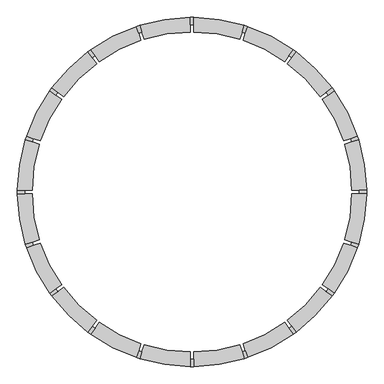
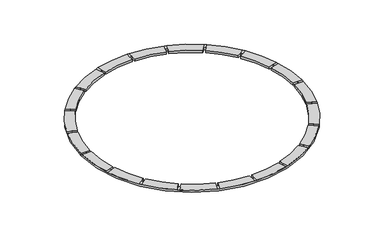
"""IFC4 building model written with IfcOpenShell, lengths in millimetres: proxy geometry, Drizzle 7.3dm."""

from ifc_helpers import new_model, si_unit, frame, origin, place, context, project, spatial, polyline, circle_curve, source, transform, mapped, element, save
from ifc_brep_helpers import plane_surface, cylinder_surface, revolved_surface, advanced_brep


def generic_models_4dc89ae3(model_context):
    return source(origin(), model_context, "Body", "AdvancedBrep", [
        advanced_brep(
        [(18335.1497302, 668.1683381, -48.9371706), (18335.1497302, 668.1683381, -60.9371706), (18335.1797277, 662.168658, -60.9371706), (18362.6903457, 488.4734491, -60.9371706), (18366.3983507, 477.0613828, -60.9371706), (18446.2372808, 320.3686589, -60.9371706), (18453.2903245, 310.6609771, -60.9371706), (18577.6423719, 186.3089304, -60.9371706), (18587.3500542, 179.2558864, -60.9371706), (18744.0427914, 99.4169531, -60.9371706), (18755.4548588, 95.7089481, -60.9371706), (18929.1500496, 68.1983357, -60.9371706), (18941.1494109, 68.1983357, -60.9371706), (19114.8446151, 95.7089524, -60.9371706), (19126.2566899, 99.4169602, -60.9371706), (19282.9494032, 179.2558844, -60.9371706), (19292.6570975, 186.3089372, -60.9371706), (19417.0091315, 310.6609713, -60.9371706), (19424.062188, 320.3686708, -60.9371706), (19503.9011123, 477.0613909, -60.9371706), (19507.6091228, 488.4734751, -60.9371706), (19535.1197325, 662.1686498, -60.9371706), (19535.1497302, 668.1683381, -60.9371706), (19535.1497302, 668.1683381, -48.9371706), (19535.1197325, 662.1686498, -48.9371706), (19507.6091228, 488.4734751, -48.9371706), (19503.9011123, 477.0613909, -48.9371706), (19424.062188, 320.3686708, -48.9371706), (19417.0091315, 310.6609713, -48.9371706), (19292.6570975, 186.3089372, -48.9371706), (19282.9494032, 179.2558844, -48.9371706), (19126.2566899, 99.4169602, -48.9371706), (19114.8446151, 95.7089524, -48.9371706), (18941.1494109, 68.1983357, -48.9371706), (18929.1500496, 68.1983357, -48.9371706), (18755.4548588, 95.7089481, -48.9371706), (18744.0427914, 99.4169531, -48.9371706), (18587.3500542, 179.2558864, -48.9371706), (18577.6423719, 186.3089304, -48.9371706), (18453.2903245, 310.6609771, -48.9371706), (18446.2372808, 320.3686589, -48.9371706), (18366.3983507, 477.0613828, -48.9371706), (18362.6903457, 488.4734491, -48.9371706), (18335.1797277, 662.168658, -48.9371706), (18335.1797277, 674.1680185, -48.9371706), (18362.690339, 847.8632059, -48.9371706), (18366.3983465, 859.2752809, -48.9371706), (18446.237274, 1015.9680078, -48.9371706), (18453.2903272, 1025.6757028, -48.9371706), (18577.642361, 1150.0277378, -48.9371706), (18587.3500592, 1157.0807934, -48.9371706), (18744.0427652, 1236.9197143, -48.9371706), (18755.4548508, 1240.6277256, -48.9371706), (18929.1500433, 1268.1383405, -48.9371706), (18941.1494169, 1268.1383405, -48.9371706), (19114.8445939, 1240.6277305, -48.9371706), (19126.2566767, 1236.9197205, -48.9371706), (19282.9493979, 1157.0807957, -48.9371706), (19292.6570966, 1150.0277398, -48.9371706), (19417.0091292, 1025.6757081, -48.9371706), (19424.062186, 1015.9680083, -48.9371706), (19503.9011065, 859.2753027, -48.9371706), (19507.6091175, 847.863218, -48.9371706), (19535.1197325, 674.1680266, -48.9371706), (19535.1197325, 674.1680266, -60.9371706), (19507.6091175, 847.863218, -60.9371706), (19503.9011065, 859.2753027, -60.9371706), (19424.062186, 1015.9680083, -60.9371706), (19417.0091292, 1025.6757081, -60.9371706), (19292.6570966, 1150.0277398, -60.9371706), (19282.9493979, 1157.0807957, -60.9371706), (19126.2566767, 1236.9197205, -60.9371706), (19114.8445939, 1240.6277305, -60.9371706), (18941.1494169, 1268.1383405, -60.9371706), (18929.1500433, 1268.1383405, -60.9371706), (18755.4548508, 1240.6277256, -60.9371706), (18744.0427652, 1236.9197143, -60.9371706), (18587.3500592, 1157.0807934, -60.9371706), (18577.642361, 1150.0277378, -60.9371706), (18453.2903272, 1025.6757028, -60.9371706), (18446.237274, 1015.9680078, -60.9371706), (18366.3983465, 859.2752809, -60.9371706), (18362.690339, 847.8632059, -60.9371706), (18335.1797277, 674.1680185, -60.9371706), (18602.045712, 1136.8544944, -60.9371706), (18751.7682976, 1213.1419615, -60.9371706), (18759.494162, 1189.3641952, -60.9371706), (18616.7411798, 1116.6279183, -60.9371706), (18751.7682976, 1213.1419615, -48.9371706), (18763.1809758, 1216.8501654, -48.9371706), (18759.494162, 1189.3641952, -48.9371706), (18770.9068402, 1193.072399, -48.9371706), (18763.1809758, 1216.8501654, -60.9371706), (18770.9068402, 1193.072399, -60.9371706), (18616.7411798, 1116.6279183, -48.9371706), (18602.045712, 1136.8544944, -48.9371706), (18592.3375081, 1129.8010713, -48.9371706), (18592.3375081, 1129.8010713, -60.9371706), (18473.5169948, 1010.9805574, -60.9371706), (18607.0329758, 1109.5744952, -60.9371706), (18493.743571, 996.2850897, -60.9371706), (18493.743571, 996.2850897, -48.9371706), (18607.0329758, 1109.5744952, -48.9371706), (18473.5169948, 1010.9805574, -48.9371706), (19376.5558873, 996.2850925, -48.9371706), (19376.5558873, 996.2850925, -60.9371706), (19396.7824634, 1010.9805602, -60.9371706), (19396.7824634, 1010.9805602, -48.9371706), (19383.6093103, 986.5768885, -48.9371706), (19403.8358864, 1001.2723563, -48.9371706), (19403.8358864, 1001.2723563, -60.9371706), (19383.6093103, 986.5768885, -60.9371706), (19263.2664818, 1109.5744973, -48.9371706), (19263.2664818, 1109.5744973, -60.9371706), (19277.9619494, 1129.8010735, -60.9371706), (19277.9619494, 1129.8010735, -48.9371706), (19253.5582778, 1116.6279203, -48.9371706), (19253.5582778, 1116.6279203, -60.9371706), (19268.2537455, 1136.8544964, -60.9371706), (19268.2537455, 1136.8544964, -48.9371706), (19110.8052827, 1189.3642004, -48.9371706), (19110.8052827, 1189.3642004, -60.9371706), (19118.5311464, 1213.141967, -60.9371706), (19118.5311464, 1213.141967, -48.9371706), (19099.3926044, 1193.0724039, -48.9371706), (19099.3926044, 1193.0724039, -60.9371706), (19107.1184681, 1216.8501705, -60.9371706), (19107.1184681, 1216.8501705, -48.9371706), (18941.1497302, 1218.1356099, -48.9371706), (18941.1497302, 1218.1356099, -60.9371706), (18941.1497302, 1243.1370329, -60.9371706), (18941.1497302, 1243.1370329, -48.9371706), (18929.1497302, 1218.1356099, -48.9371706), (18929.1497302, 1218.1356099, -60.9371706), (18929.1497302, 1243.1370329, -60.9371706), (18929.1497302, 1243.1370329, -48.9371706), (18466.4635718, 1001.2723534, -48.9371706), (18466.4635718, 1001.2723534, -60.9371706), (18390.1761013, 851.5497544, -60.9371706), (18486.690148, 986.5768858, -60.9371706), (18413.9538679, 843.8238907, -60.9371706), (18413.9538679, 843.8238907, -48.9371706), (18486.690148, 986.5768858, -48.9371706), (18390.1761013, 851.5497544, -48.9371706), (19396.7824655, 325.3561189, -60.9371706), (19396.7824655, 325.3561189, -48.9371706), (19403.8358885, 335.0643228, -48.9371706), (19403.8358885, 335.0643228, -60.9371706), (19480.123359, 484.7869218, -60.9371706), (19383.6093123, 349.7597905, -60.9371706), (19456.3455924, 492.5127855, -60.9371706), (19456.3455924, 492.5127855, -48.9371706), (19383.6093123, 349.7597905, -48.9371706), (19480.123359, 484.7869218, -48.9371706), (19376.5558893, 340.0515865, -60.9371706), (19376.5558893, 340.0515865, -48.9371706), (19483.8315625, 496.1996002, -48.9371706), (19483.8315625, 496.1996002, -60.9371706), (19460.0537959, 503.9254639, -60.9371706), (19485.1170019, 662.1683381, -60.9371706), (19510.118425, 662.1683381, -60.9371706), (19485.1170019, 662.1683381, -48.9371706), (19460.0537959, 503.9254639, -48.9371706), (19510.118425, 662.1683381, -48.9371706), (19510.1497302, 668.1683381, -48.9371706), (19510.1497302, 668.1683381, -60.9371706), (19510.118425, 674.1683381, -60.9371706), (19510.118425, 674.1683381, -48.9371706), (19460.053791, 832.4112281, -48.9371706), (19460.053791, 832.4112281, -60.9371706), (19485.1170019, 674.1683381, -60.9371706), (19485.1170019, 674.1683381, -48.9371706), (19483.8315574, 840.1370925, -60.9371706), (19483.8315574, 840.1370925, -48.9371706), (19456.3455872, 843.8239063, -48.9371706), (19456.3455872, 843.8239063, -60.9371706), (19480.1233535, 851.5497707, -60.9371706), (19480.1233535, 851.5497707, -48.9371706), (18386.4678978, 840.1370761, -48.9371706), (18386.4678978, 840.1370761, -60.9371706), (18360.1810354, 674.1683381, -60.9371706), (18410.2456644, 832.4112124, -60.9371706), (18385.1824584, 674.1683381, -60.9371706), (18385.1824584, 674.1683381, -48.9371706), (18410.2456644, 832.4112124, -48.9371706), (18360.1810354, 674.1683381, -48.9371706), (18360.1810354, 662.1683381, -48.9371706), (18360.1810354, 662.1683381, -60.9371706), (18386.4679029, 496.1995838, -60.9371706), (18385.1824584, 662.1683381, -60.9371706), (18410.2456693, 503.9254482, -60.9371706), (18410.2456693, 503.9254482, -48.9371706), (18385.1824584, 662.1683381, -48.9371706), (18386.4679029, 496.1995838, -48.9371706), (18390.1761068, 484.7869055, -48.9371706), (18390.1761068, 484.7869055, -60.9371706), (18466.4635739, 335.0643199, -60.9371706), (18413.9538731, 492.51277, -60.9371706), (18486.69015, 349.7597877, -60.9371706), (18486.69015, 349.7597877, -48.9371706), (18413.9538731, 492.51277, -48.9371706), (18466.4635739, 335.0643199, -48.9371706), (18473.5169969, 325.356116, -48.9371706), (18473.5169969, 325.356116, -60.9371706), (18592.3375109, 206.5356028, -60.9371706), (18493.7435731, 340.0515838, -60.9371706), (18607.0329786, 226.762179, -60.9371706), (18607.0329786, 226.762179, -48.9371706), (18493.7435731, 340.0515838, -48.9371706), (18592.3375109, 206.5356028, -48.9371706), (18602.0457149, 199.4821798, -48.9371706), (18602.0457149, 199.4821798, -60.9371706), (18751.7683139, 123.1947093, -60.9371706), (18616.7411825, 219.708756, -60.9371706), (18759.4941776, 146.9724759, -60.9371706), (18759.4941776, 146.9724759, -48.9371706), (18616.7411825, 219.708756, -48.9371706), (18751.7683139, 123.1947093, -48.9371706), (18763.1809922, 119.4865058, -48.9371706), (18763.1809922, 119.4865058, -60.9371706), (18929.1497302, 93.1996433, -60.9371706), (18770.9068559, 143.2642724, -60.9371706), (18929.1497302, 118.2010664, -60.9371706), (18929.1497302, 118.2010664, -48.9371706), (18770.9068559, 143.2642724, -48.9371706), (18929.1497302, 93.1996433, -48.9371706), (18941.1497302, 93.1996433, -48.9371706), (18941.1497302, 93.1996433, -60.9371706), (19107.1184845, 119.4865109, -60.9371706), (18941.1497302, 118.2010664, -60.9371706), (19099.3926201, 143.2642773, -60.9371706), (19099.3926201, 143.2642773, -48.9371706), (18941.1497302, 118.2010664, -48.9371706), (19107.1184845, 119.4865109, -48.9371706), (19118.5311627, 123.1947148, -48.9371706), (19118.5311627, 123.1947148, -60.9371706), (19268.2537483, 199.4821819, -60.9371706), (19110.8052983, 146.9724811, -60.9371706), (19253.5582806, 219.708758, -60.9371706), (19253.5582806, 219.708758, -48.9371706), (19110.8052983, 146.9724811, -48.9371706), (19268.2537483, 199.4821819, -48.9371706), (19277.9619523, 206.5356049, -48.9371706), (19277.9619523, 206.5356049, -60.9371706), (19263.2664845, 226.762181, -60.9371706), (19263.2664845, 226.762181, -48.9371706)],
        [
            (0, 1),
            (1, 2, circle_curve(frame((18935.1497302, 668.1683381, -60.9371706), z_axis=(0.0, 0.0, 1.0), x_axis=(-1.0, 0.0, 0.0)), 600.0)),
            (2, 3, circle_curve(frame((18935.1497302, 668.1683381, -60.9371706), z_axis=(0.0, 0.0, 1.0), x_axis=(-1.0, 0.0, 0.0)), 600.0)),
            (3, 4, circle_curve(frame((18935.1497302, 668.1683381, -60.9371706), z_axis=(0.0, 0.0, 1.0), x_axis=(-1.0, 0.0, 0.0)), 600.0)),
            (4, 5, circle_curve(frame((18935.1497302, 668.1683381, -60.9371706), z_axis=(0.0, 0.0, 1.0), x_axis=(-1.0, 0.0, 0.0)), 600.0)),
            (5, 6, circle_curve(frame((18935.1497302, 668.1683381, -60.9371706), z_axis=(0.0, 0.0, 1.0), x_axis=(-1.0, 0.0, 0.0)), 600.0)),
            (6, 7, circle_curve(frame((18935.1497302, 668.1683381, -60.9371706), z_axis=(0.0, 0.0, 1.0), x_axis=(-1.0, 0.0, 0.0)), 600.0)),
            (7, 8, circle_curve(frame((18935.1497302, 668.1683381, -60.9371706), z_axis=(0.0, 0.0, 1.0), x_axis=(-1.0, 0.0, 0.0)), 600.0)),
            (8, 9, circle_curve(frame((18935.1497302, 668.1683381, -60.9371706), z_axis=(0.0, 0.0, 1.0), x_axis=(-1.0, 0.0, 0.0)), 600.0)),
            (9, 10, circle_curve(frame((18935.1497302, 668.1683381, -60.9371706), z_axis=(0.0, 0.0, 1.0), x_axis=(-1.0, 0.0, 0.0)), 600.0)),
            (10, 11, circle_curve(frame((18935.1497302, 668.1683381, -60.9371706), z_axis=(0.0, 0.0, 1.0), x_axis=(-1.0, 0.0, 0.0)), 600.0)),
            (11, 12, circle_curve(frame((18935.1497302, 668.1683381, -60.9371706), z_axis=(0.0, 0.0, 1.0), x_axis=(-1.0, 0.0, 0.0)), 600.0)),
            (12, 13, circle_curve(frame((18935.1497302, 668.1683381, -60.9371706), z_axis=(0.0, 0.0, 1.0), x_axis=(-1.0, 0.0, 0.0)), 600.0)),
            (13, 14, circle_curve(frame((18935.1497302, 668.1683381, -60.9371706), z_axis=(0.0, 0.0, 1.0), x_axis=(-1.0, 0.0, 0.0)), 600.0)),
            (14, 15, circle_curve(frame((18935.1497302, 668.1683381, -60.9371706), z_axis=(0.0, 0.0, 1.0), x_axis=(-1.0, 0.0, 0.0)), 600.0)),
            (15, 16, circle_curve(frame((18935.1497302, 668.1683381, -60.9371706), z_axis=(0.0, 0.0, 1.0), x_axis=(-1.0, 0.0, 0.0)), 600.0)),
            (16, 17, circle_curve(frame((18935.1497302, 668.1683381, -60.9371706), z_axis=(0.0, 0.0, 1.0), x_axis=(-1.0, 0.0, 0.0)), 600.0)),
            (17, 18, circle_curve(frame((18935.1497302, 668.1683381, -60.9371706), z_axis=(0.0, 0.0, 1.0), x_axis=(-1.0, 0.0, 0.0)), 600.0)),
            (18, 19, circle_curve(frame((18935.1497302, 668.1683381, -60.9371706), z_axis=(0.0, 0.0, 1.0), x_axis=(-1.0, 0.0, 0.0)), 600.0)),
            (19, 20, circle_curve(frame((18935.1497302, 668.1683381, -60.9371706), z_axis=(0.0, 0.0, 1.0), x_axis=(-1.0, 0.0, 0.0)), 600.0)),
            (20, 21, circle_curve(frame((18935.1497302, 668.1683381, -60.9371706), z_axis=(0.0, 0.0, 1.0), x_axis=(-1.0, 0.0, 0.0)), 600.0)),
            (21, 22, circle_curve(frame((18935.1497302, 668.1683381, -60.9371706), z_axis=(0.0, 0.0, 1.0), x_axis=(-1.0, 0.0, 0.0)), 600.0)),
            (22, 23),
            (23, 24, circle_curve(frame((18935.1497302, 668.1683381, -48.9371706), z_axis=(0.0, 0.0, -1.0), x_axis=(-1.0, 0.0, 0.0)), 600.0)),
            (24, 25, circle_curve(frame((18935.1497302, 668.1683381, -48.9371706), z_axis=(0.0, 0.0, -1.0), x_axis=(-1.0, 0.0, 0.0)), 600.0)),
            (25, 26, circle_curve(frame((18935.1497302, 668.1683381, -48.9371706), z_axis=(0.0, 0.0, -1.0), x_axis=(-1.0, 0.0, 0.0)), 600.0)),
            (26, 27, circle_curve(frame((18935.1497302, 668.1683381, -48.9371706), z_axis=(0.0, 0.0, -1.0), x_axis=(-1.0, 0.0, 0.0)), 600.0)),
            (27, 28, circle_curve(frame((18935.1497302, 668.1683381, -48.9371706), z_axis=(0.0, 0.0, -1.0), x_axis=(-1.0, 0.0, 0.0)), 600.0)),
            (28, 29, circle_curve(frame((18935.1497302, 668.1683381, -48.9371706), z_axis=(0.0, 0.0, -1.0), x_axis=(-1.0, 0.0, 0.0)), 600.0)),
            (29, 30, circle_curve(frame((18935.1497302, 668.1683381, -48.9371706), z_axis=(0.0, 0.0, -1.0), x_axis=(-1.0, 0.0, 0.0)), 600.0)),
            (30, 31, circle_curve(frame((18935.1497302, 668.1683381, -48.9371706), z_axis=(0.0, 0.0, -1.0), x_axis=(-1.0, 0.0, 0.0)), 600.0)),
            (31, 32, circle_curve(frame((18935.1497302, 668.1683381, -48.9371706), z_axis=(0.0, 0.0, -1.0), x_axis=(-1.0, 0.0, 0.0)), 600.0)),
            (32, 33, circle_curve(frame((18935.1497302, 668.1683381, -48.9371706), z_axis=(0.0, 0.0, -1.0), x_axis=(-1.0, 0.0, 0.0)), 600.0)),
            (33, 34, circle_curve(frame((18935.1497302, 668.1683381, -48.9371706), z_axis=(0.0, 0.0, -1.0), x_axis=(-1.0, 0.0, 0.0)), 600.0)),
            (34, 35, circle_curve(frame((18935.1497302, 668.1683381, -48.9371706), z_axis=(0.0, 0.0, -1.0), x_axis=(-1.0, 0.0, 0.0)), 600.0)),
            (35, 36, circle_curve(frame((18935.1497302, 668.1683381, -48.9371706), z_axis=(0.0, 0.0, -1.0), x_axis=(-1.0, 0.0, 0.0)), 600.0)),
            (36, 37, circle_curve(frame((18935.1497302, 668.1683381, -48.9371706), z_axis=(0.0, 0.0, -1.0), x_axis=(-1.0, 0.0, 0.0)), 600.0)),
            (37, 38, circle_curve(frame((18935.1497302, 668.1683381, -48.9371706), z_axis=(0.0, 0.0, -1.0), x_axis=(-1.0, 0.0, 0.0)), 600.0)),
            (38, 39, circle_curve(frame((18935.1497302, 668.1683381, -48.9371706), z_axis=(0.0, 0.0, -1.0), x_axis=(-1.0, 0.0, 0.0)), 600.0)),
            (39, 40, circle_curve(frame((18935.1497302, 668.1683381, -48.9371706), z_axis=(0.0, 0.0, -1.0), x_axis=(-1.0, 0.0, 0.0)), 600.0)),
            (40, 41, circle_curve(frame((18935.1497302, 668.1683381, -48.9371706), z_axis=(0.0, 0.0, -1.0), x_axis=(-1.0, 0.0, 0.0)), 600.0)),
            (41, 42, circle_curve(frame((18935.1497302, 668.1683381, -48.9371706), z_axis=(0.0, 0.0, -1.0), x_axis=(-1.0, 0.0, 0.0)), 600.0)),
            (42, 43, circle_curve(frame((18935.1497302, 668.1683381, -48.9371706), z_axis=(0.0, 0.0, -1.0), x_axis=(-1.0, 0.0, 0.0)), 600.0)),
            (43, 0, circle_curve(frame((18935.1497302, 668.1683381, -48.9371706), z_axis=(0.0, 0.0, -1.0), x_axis=(-1.0, 0.0, 0.0)), 600.0)),
            (0, 44, circle_curve(frame((18935.1497302, 668.1683381, -48.9371706), z_axis=(0.0, 0.0, -1.0), x_axis=(-1.0, 0.0, 0.0)), 600.0)),
            (44, 45, circle_curve(frame((18935.1497302, 668.1683381, -48.9371706), z_axis=(0.0, 0.0, -1.0), x_axis=(-1.0, 0.0, 0.0)), 600.0)),
            (45, 46, circle_curve(frame((18935.1497302, 668.1683381, -48.9371706), z_axis=(0.0, 0.0, -1.0), x_axis=(-1.0, 0.0, 0.0)), 600.0)),
            (46, 47, circle_curve(frame((18935.1497302, 668.1683381, -48.9371706), z_axis=(0.0, 0.0, -1.0), x_axis=(-1.0, 0.0, 0.0)), 600.0)),
            (47, 48, circle_curve(frame((18935.1497302, 668.1683381, -48.9371706), z_axis=(0.0, 0.0, -1.0), x_axis=(-1.0, 0.0, 0.0)), 600.0)),
            (48, 49, circle_curve(frame((18935.1497302, 668.1683381, -48.9371706), z_axis=(0.0, 0.0, -1.0), x_axis=(-1.0, 0.0, 0.0)), 600.0)),
            (49, 50, circle_curve(frame((18935.1497302, 668.1683381, -48.9371706), z_axis=(0.0, 0.0, -1.0), x_axis=(-1.0, 0.0, 0.0)), 600.0)),
            (50, 51, circle_curve(frame((18935.1497302, 668.1683381, -48.9371706), z_axis=(0.0, 0.0, -1.0), x_axis=(-1.0, 0.0, 0.0)), 600.0)),
            (51, 52, circle_curve(frame((18935.1497302, 668.1683381, -48.9371706), z_axis=(0.0, 0.0, -1.0), x_axis=(-1.0, 0.0, 0.0)), 600.0)),
            (52, 53, circle_curve(frame((18935.1497302, 668.1683381, -48.9371706), z_axis=(0.0, 0.0, -1.0), x_axis=(-1.0, 0.0, 0.0)), 600.0)),
            (53, 54, circle_curve(frame((18935.1497302, 668.1683381, -48.9371706), z_axis=(0.0, 0.0, -1.0), x_axis=(-1.0, 0.0, 0.0)), 600.0)),
            (54, 55, circle_curve(frame((18935.1497302, 668.1683381, -48.9371706), z_axis=(0.0, 0.0, -1.0), x_axis=(-1.0, 0.0, 0.0)), 600.0)),
            (55, 56, circle_curve(frame((18935.1497302, 668.1683381, -48.9371706), z_axis=(0.0, 0.0, -1.0), x_axis=(-1.0, 0.0, 0.0)), 600.0)),
            (56, 57, circle_curve(frame((18935.1497302, 668.1683381, -48.9371706), z_axis=(0.0, 0.0, -1.0), x_axis=(-1.0, 0.0, 0.0)), 600.0)),
            (57, 58, circle_curve(frame((18935.1497302, 668.1683381, -48.9371706), z_axis=(0.0, 0.0, -1.0), x_axis=(-1.0, 0.0, 0.0)), 600.0)),
            (58, 59, circle_curve(frame((18935.1497302, 668.1683381, -48.9371706), z_axis=(0.0, 0.0, -1.0), x_axis=(-1.0, 0.0, 0.0)), 600.0)),
            (59, 60, circle_curve(frame((18935.1497302, 668.1683381, -48.9371706), z_axis=(0.0, 0.0, -1.0), x_axis=(-1.0, 0.0, 0.0)), 600.0)),
            (60, 61, circle_curve(frame((18935.1497302, 668.1683381, -48.9371706), z_axis=(0.0, 0.0, -1.0), x_axis=(-1.0, 0.0, 0.0)), 600.0)),
            (61, 62, circle_curve(frame((18935.1497302, 668.1683381, -48.9371706), z_axis=(0.0, 0.0, -1.0), x_axis=(-1.0, 0.0, 0.0)), 600.0)),
            (62, 63, circle_curve(frame((18935.1497302, 668.1683381, -48.9371706), z_axis=(0.0, 0.0, -1.0), x_axis=(-1.0, 0.0, 0.0)), 600.0)),
            (63, 23, circle_curve(frame((18935.1497302, 668.1683381, -48.9371706), z_axis=(0.0, 0.0, -1.0), x_axis=(-1.0, 0.0, 0.0)), 600.0)),
            (22, 64, circle_curve(frame((18935.1497302, 668.1683381, -60.9371706), z_axis=(0.0, 0.0, 1.0), x_axis=(-1.0, 0.0, 0.0)), 600.0)),
            (64, 65, circle_curve(frame((18935.1497302, 668.1683381, -60.9371706), z_axis=(0.0, 0.0, 1.0), x_axis=(-1.0, 0.0, 0.0)), 600.0)),
            (65, 66, circle_curve(frame((18935.1497302, 668.1683381, -60.9371706), z_axis=(0.0, 0.0, 1.0), x_axis=(-1.0, 0.0, 0.0)), 600.0)),
            (66, 67, circle_curve(frame((18935.1497302, 668.1683381, -60.9371706), z_axis=(0.0, 0.0, 1.0), x_axis=(-1.0, 0.0, 0.0)), 600.0)),
            (67, 68, circle_curve(frame((18935.1497302, 668.1683381, -60.9371706), z_axis=(0.0, 0.0, 1.0), x_axis=(-1.0, 0.0, 0.0)), 600.0)),
            (68, 69, circle_curve(frame((18935.1497302, 668.1683381, -60.9371706), z_axis=(0.0, 0.0, 1.0), x_axis=(-1.0, 0.0, 0.0)), 600.0)),
            (69, 70, circle_curve(frame((18935.1497302, 668.1683381, -60.9371706), z_axis=(0.0, 0.0, 1.0), x_axis=(-1.0, 0.0, 0.0)), 600.0)),
            (70, 71, circle_curve(frame((18935.1497302, 668.1683381, -60.9371706), z_axis=(0.0, 0.0, 1.0), x_axis=(-1.0, 0.0, 0.0)), 600.0)),
            (71, 72, circle_curve(frame((18935.1497302, 668.1683381, -60.9371706), z_axis=(0.0, 0.0, 1.0), x_axis=(-1.0, 0.0, 0.0)), 600.0)),
            (72, 73, circle_curve(frame((18935.1497302, 668.1683381, -60.9371706), z_axis=(0.0, 0.0, 1.0), x_axis=(-1.0, 0.0, 0.0)), 600.0)),
            (73, 74, circle_curve(frame((18935.1497302, 668.1683381, -60.9371706), z_axis=(0.0, 0.0, 1.0), x_axis=(-1.0, 0.0, 0.0)), 600.0)),
            (74, 75, circle_curve(frame((18935.1497302, 668.1683381, -60.9371706), z_axis=(0.0, 0.0, 1.0), x_axis=(-1.0, 0.0, 0.0)), 600.0)),
            (75, 76, circle_curve(frame((18935.1497302, 668.1683381, -60.9371706), z_axis=(0.0, 0.0, 1.0), x_axis=(-1.0, 0.0, 0.0)), 600.0)),
            (76, 77, circle_curve(frame((18935.1497302, 668.1683381, -60.9371706), z_axis=(0.0, 0.0, 1.0), x_axis=(-1.0, 0.0, 0.0)), 600.0)),
            (77, 78, circle_curve(frame((18935.1497302, 668.1683381, -60.9371706), z_axis=(0.0, 0.0, 1.0), x_axis=(-1.0, 0.0, 0.0)), 600.0)),
            (78, 79, circle_curve(frame((18935.1497302, 668.1683381, -60.9371706), z_axis=(0.0, 0.0, 1.0), x_axis=(-1.0, 0.0, 0.0)), 600.0)),
            (79, 80, circle_curve(frame((18935.1497302, 668.1683381, -60.9371706), z_axis=(0.0, 0.0, 1.0), x_axis=(-1.0, 0.0, 0.0)), 600.0)),
            (80, 81, circle_curve(frame((18935.1497302, 668.1683381, -60.9371706), z_axis=(0.0, 0.0, 1.0), x_axis=(-1.0, 0.0, 0.0)), 600.0)),
            (81, 82, circle_curve(frame((18935.1497302, 668.1683381, -60.9371706), z_axis=(0.0, 0.0, 1.0), x_axis=(-1.0, 0.0, 0.0)), 600.0)),
            (82, 83, circle_curve(frame((18935.1497302, 668.1683381, -60.9371706), z_axis=(0.0, 0.0, 1.0), x_axis=(-1.0, 0.0, 0.0)), 600.0)),
            (83, 1, circle_curve(frame((18935.1497302, 668.1683381, -60.9371706), z_axis=(0.0, 0.0, 1.0), x_axis=(-1.0, 0.0, 0.0)), 600.0)),
            (84, 77),
            (76, 85),
            (85, 86),
            (86, 87, circle_curve(frame((18935.1497302, 668.1683381, -60.9371706), z_axis=(0.0, 0.0, 1.0), x_axis=(-1.0, 0.0, 0.0)), 550.0)),
            (87, 84),
            (51, 88),
            (88, 89, circle_curve(frame((18935.1497302, 668.1683381, -48.9371706), z_axis=(0.0, 0.0, -1.0), x_axis=(-1.0, 0.0, 0.0)), 575.0)),
            (89, 52),
            (90, 86),
            (85, 88),
            (88, 90),
            (91, 89),
            (89, 92),
            (92, 93),
            (93, 91),
            (85, 92, circle_curve(frame((18935.1497302, 668.1683381, -60.9371706), z_axis=(0.0, 0.0, -1.0), x_axis=(-1.0, 0.0, 0.0)), 575.0)),
            (94, 87),
            (90, 94, circle_curve(frame((18935.1497302, 668.1683381, -48.9371706), z_axis=(0.0, 0.0, 1.0), x_axis=(-1.0, 0.0, 0.0)), 550.0)),
            (75, 92),
            (95, 94),
            (50, 95),
            (84, 95),
            (95, 96, circle_curve(frame((18935.1497302, 668.1683381, -48.9371706), z_axis=(0.0, 0.0, 1.0), x_axis=(-1.0, 0.0, 0.0)), 575.0)),
            (96, 97),
            (97, 84, circle_curve(frame((18935.1497302, 668.1683381, -60.9371706), z_axis=(0.0, 0.0, -1.0), x_axis=(-1.0, 0.0, 0.0)), 575.0)),
            (97, 78),
            (98, 79),
            (97, 99),
            (99, 100, circle_curve(frame((18935.1497302, 668.1683381, -60.9371706), z_axis=(0.0, 0.0, 1.0), x_axis=(-1.0, 0.0, 0.0)), 550.0)),
            (100, 98),
            (101, 100),
            (99, 102),
            (102, 101, circle_curve(frame((18935.1497302, 668.1683381, -48.9371706), z_axis=(0.0, 0.0, 1.0), x_axis=(-1.0, 0.0, 0.0)), 550.0)),
            (49, 96),
            (103, 101),
            (102, 96),
            (48, 103),
            (104, 105),
            (105, 106),
            (106, 107),
            (107, 104),
            (108, 109),
            (109, 110),
            (110, 111),
            (111, 108),
            (109, 107, circle_curve(frame((18935.1497302, 668.1683381, -48.9371706), z_axis=(0.0, 0.0, 1.0), x_axis=(-1.0, 0.0, 0.0)), 575.0)),
            (106, 110, circle_curve(frame((18935.1497302, 668.1683381, -60.9371706), z_axis=(0.0, 0.0, -1.0), x_axis=(-1.0, 0.0, 0.0)), 575.0)),
            (112, 113),
            (113, 105, circle_curve(frame((18935.1497302, 668.1683381, -60.9371706), z_axis=(0.0, 0.0, -1.0), x_axis=(-1.0, 0.0, 0.0)), 550.0)),
            (104, 112, circle_curve(frame((18935.1497302, 668.1683381, -48.9371706), z_axis=(0.0, 0.0, 1.0), x_axis=(-1.0, 0.0, 0.0)), 550.0)),
            (114, 69),
            (68, 106),
            (113, 114),
            (67, 110),
            (59, 107),
            (109, 60),
            (115, 112),
            (58, 115),
            (116, 117),
            (117, 118),
            (118, 119),
            (119, 116),
            (115, 114),
            (115, 119, circle_curve(frame((18935.1497302, 668.1683381, -48.9371706), z_axis=(0.0, 0.0, 1.0), x_axis=(-1.0, 0.0, 0.0)), 575.0)),
            (118, 114, circle_curve(frame((18935.1497302, 668.1683381, -60.9371706), z_axis=(0.0, 0.0, -1.0), x_axis=(-1.0, 0.0, 0.0)), 575.0)),
            (120, 121),
            (121, 117, circle_curve(frame((18935.1497302, 668.1683381, -60.9371706), z_axis=(0.0, 0.0, -1.0), x_axis=(-1.0, 0.0, 0.0)), 550.0)),
            (116, 120, circle_curve(frame((18935.1497302, 668.1683381, -48.9371706), z_axis=(0.0, 0.0, 1.0), x_axis=(-1.0, 0.0, 0.0)), 550.0)),
            (122, 71),
            (70, 118),
            (121, 122),
            (57, 119),
            (123, 120),
            (56, 123),
            (124, 125),
            (125, 126),
            (126, 127),
            (127, 124),
            (123, 122),
            (123, 127, circle_curve(frame((18935.1497302, 668.1683381, -48.9371706), z_axis=(0.0, 0.0, 1.0), x_axis=(-1.0, 0.0, 0.0)), 575.0)),
            (126, 122, circle_curve(frame((18935.1497302, 668.1683381, -60.9371706), z_axis=(0.0, 0.0, -1.0), x_axis=(-1.0, 0.0, 0.0)), 575.0)),
            (128, 129),
            (129, 125, circle_curve(frame((18935.1497302, 668.1683381, -60.9371706), z_axis=(0.0, 0.0, -1.0), x_axis=(-1.0, 0.0, 0.0)), 550.0)),
            (124, 128, circle_curve(frame((18935.1497302, 668.1683381, -48.9371706), z_axis=(0.0, 0.0, 1.0), x_axis=(-1.0, 0.0, 0.0)), 550.0)),
            (130, 73),
            (72, 126),
            (129, 130),
            (55, 127),
            (131, 128),
            (54, 131),
            (132, 133),
            (133, 134),
            (134, 135),
            (135, 132),
            (131, 130),
            (131, 135, circle_curve(frame((18935.1497302, 668.1683381, -48.9371706), z_axis=(0.0, 0.0, 1.0), x_axis=(-1.0, 0.0, 0.0)), 575.0)),
            (134, 130, circle_curve(frame((18935.1497302, 668.1683381, -60.9371706), z_axis=(0.0, 0.0, -1.0), x_axis=(-1.0, 0.0, 0.0)), 575.0)),
            (132, 91, circle_curve(frame((18935.1497302, 668.1683381, -48.9371706), z_axis=(0.0, 0.0, 1.0), x_axis=(-1.0, 0.0, 0.0)), 550.0)),
            (93, 133, circle_curve(frame((18935.1497302, 668.1683381, -60.9371706), z_axis=(0.0, 0.0, -1.0), x_axis=(-1.0, 0.0, 0.0)), 550.0)),
            (74, 134),
            (53, 135),
            (98, 103),
            (103, 136, circle_curve(frame((18935.1497302, 668.1683381, -48.9371706), z_axis=(0.0, 0.0, 1.0), x_axis=(-1.0, 0.0, 0.0)), 575.0)),
            (136, 137),
            (137, 98, circle_curve(frame((18935.1497302, 668.1683381, -60.9371706), z_axis=(0.0, 0.0, -1.0), x_axis=(-1.0, 0.0, 0.0)), 575.0)),
            (137, 80),
            (138, 81),
            (137, 139),
            (139, 140, circle_curve(frame((18935.1497302, 668.1683381, -60.9371706), z_axis=(0.0, 0.0, 1.0), x_axis=(-1.0, 0.0, 0.0)), 550.0)),
            (140, 138),
            (141, 140),
            (139, 142),
            (142, 141, circle_curve(frame((18935.1497302, 668.1683381, -48.9371706), z_axis=(0.0, 0.0, 1.0), x_axis=(-1.0, 0.0, 0.0)), 550.0)),
            (47, 136),
            (143, 141),
            (142, 136),
            (46, 143),
            (144, 145),
            (145, 146, circle_curve(frame((18935.1497302, 668.1683381, -48.9371706), z_axis=(0.0, 0.0, 1.0), x_axis=(-1.0, 0.0, 0.0)), 575.0)),
            (146, 147),
            (147, 144, circle_curve(frame((18935.1497302, 668.1683381, -60.9371706), z_axis=(0.0, 0.0, -1.0), x_axis=(-1.0, 0.0, 0.0)), 575.0)),
            (17, 144),
            (147, 18),
            (148, 19),
            (147, 149),
            (149, 150, circle_curve(frame((18935.1497302, 668.1683381, -60.9371706), z_axis=(0.0, 0.0, 1.0), x_axis=(-1.0, 0.0, 0.0)), 550.0)),
            (150, 148),
            (151, 150),
            (149, 152),
            (152, 151, circle_curve(frame((18935.1497302, 668.1683381, -48.9371706), z_axis=(0.0, 0.0, 1.0), x_axis=(-1.0, 0.0, 0.0)), 550.0)),
            (27, 146),
            (145, 28),
            (153, 151),
            (152, 146),
            (26, 153),
            (144, 154),
            (154, 155),
            (155, 145),
            (148, 153),
            (153, 156, circle_curve(frame((18935.1497302, 668.1683381, -48.9371706), z_axis=(0.0, 0.0, 1.0), x_axis=(-1.0, 0.0, 0.0)), 575.0)),
            (156, 157),
            (157, 148, circle_curve(frame((18935.1497302, 668.1683381, -60.9371706), z_axis=(0.0, 0.0, -1.0), x_axis=(-1.0, 0.0, 0.0)), 575.0)),
            (157, 20),
            (157, 158),
            (158, 159, circle_curve(frame((18935.1497302, 668.1683381, -60.9371706), z_axis=(0.0, 0.0, 1.0), x_axis=(-1.0, 0.0, 0.0)), 550.0)),
            (159, 160),
            (160, 21),
            (161, 159),
            (158, 162),
            (162, 161, circle_curve(frame((18935.1497302, 668.1683381, -48.9371706), z_axis=(0.0, 0.0, 1.0), x_axis=(-1.0, 0.0, 0.0)), 550.0)),
            (25, 156),
            (163, 161),
            (162, 156),
            (24, 163),
            (160, 163),
            (163, 164, circle_curve(frame((18935.1497302, 668.1683381, -48.9371706), z_axis=(0.0, 0.0, 1.0), x_axis=(-1.0, 0.0, 0.0)), 575.0)),
            (164, 165),
            (165, 160, circle_curve(frame((18935.1497302, 668.1683381, -60.9371706), z_axis=(0.0, 0.0, -1.0), x_axis=(-1.0, 0.0, 0.0)), 575.0)),
            (166, 165, circle_curve(frame((18935.1497302, 668.1683381, -60.9371706), z_axis=(0.0, 0.0, -1.0), x_axis=(-1.0, 0.0, 0.0)), 575.0)),
            (164, 167, circle_curve(frame((18935.1497302, 668.1683381, -48.9371706), z_axis=(0.0, 0.0, 1.0), x_axis=(-1.0, 0.0, 0.0)), 575.0)),
            (167, 166),
            (168, 169),
            (169, 170, circle_curve(frame((18935.1497302, 668.1683381, -60.9371706), z_axis=(0.0, 0.0, -1.0), x_axis=(-1.0, 0.0, 0.0)), 550.0)),
            (170, 171),
            (171, 168, circle_curve(frame((18935.1497302, 668.1683381, -48.9371706), z_axis=(0.0, 0.0, 1.0), x_axis=(-1.0, 0.0, 0.0)), 550.0)),
            (166, 64),
            (172, 65),
            (166, 170),
            (169, 172),
            (63, 167),
            (173, 168),
            (171, 167),
            (62, 173),
            (174, 175),
            (175, 176),
            (176, 177),
            (177, 174),
            (173, 172),
            (173, 177, circle_curve(frame((18935.1497302, 668.1683381, -48.9371706), z_axis=(0.0, 0.0, 1.0), x_axis=(-1.0, 0.0, 0.0)), 575.0)),
            (176, 172, circle_curve(frame((18935.1497302, 668.1683381, -60.9371706), z_axis=(0.0, 0.0, -1.0), x_axis=(-1.0, 0.0, 0.0)), 575.0)),
            (174, 108, circle_curve(frame((18935.1497302, 668.1683381, -48.9371706), z_axis=(0.0, 0.0, 1.0), x_axis=(-1.0, 0.0, 0.0)), 550.0)),
            (111, 175, circle_curve(frame((18935.1497302, 668.1683381, -60.9371706), z_axis=(0.0, 0.0, -1.0), x_axis=(-1.0, 0.0, 0.0)), 550.0)),
            (66, 176),
            (61, 177),
            (138, 143),
            (143, 178, circle_curve(frame((18935.1497302, 668.1683381, -48.9371706), z_axis=(0.0, 0.0, 1.0), x_axis=(-1.0, 0.0, 0.0)), 575.0)),
            (178, 179),
            (179, 138, circle_curve(frame((18935.1497302, 668.1683381, -60.9371706), z_axis=(0.0, 0.0, -1.0), x_axis=(-1.0, 0.0, 0.0)), 575.0)),
            (179, 82),
            (180, 83),
            (179, 181),
            (181, 182, circle_curve(frame((18935.1497302, 668.1683381, -60.9371706), z_axis=(0.0, 0.0, 1.0), x_axis=(-1.0, 0.0, 0.0)), 550.0)),
            (182, 180),
            (183, 182),
            (181, 184),
            (184, 183, circle_curve(frame((18935.1497302, 668.1683381, -48.9371706), z_axis=(0.0, 0.0, 1.0), x_axis=(-1.0, 0.0, 0.0)), 550.0)),
            (45, 178),
            (185, 183),
            (184, 178),
            (44, 185),
            (180, 185),
            (185, 186, circle_curve(frame((18935.1497302, 668.1683381, -48.9371706), z_axis=(0.0, 0.0, 1.0), x_axis=(-1.0, 0.0, 0.0)), 575.0)),
            (186, 187),
            (187, 180, circle_curve(frame((18935.1497302, 668.1683381, -60.9371706), z_axis=(0.0, 0.0, -1.0), x_axis=(-1.0, 0.0, 0.0)), 575.0)),
            (187, 2),
            (188, 3),
            (187, 189),
            (189, 190, circle_curve(frame((18935.1497302, 668.1683381, -60.9371706), z_axis=(0.0, 0.0, 1.0), x_axis=(-1.0, 0.0, 0.0)), 550.0)),
            (190, 188),
            (191, 190),
            (189, 192),
            (192, 191, circle_curve(frame((18935.1497302, 668.1683381, -48.9371706), z_axis=(0.0, 0.0, 1.0), x_axis=(-1.0, 0.0, 0.0)), 550.0)),
            (43, 186),
            (193, 191),
            (192, 186),
            (42, 193),
            (188, 193),
            (193, 194, circle_curve(frame((18935.1497302, 668.1683381, -48.9371706), z_axis=(0.0, 0.0, 1.0), x_axis=(-1.0, 0.0, 0.0)), 575.0)),
            (194, 195),
            (195, 188, circle_curve(frame((18935.1497302, 668.1683381, -60.9371706), z_axis=(0.0, 0.0, -1.0), x_axis=(-1.0, 0.0, 0.0)), 575.0)),
            (195, 4),
            (196, 5),
            (195, 197),
            (197, 198, circle_curve(frame((18935.1497302, 668.1683381, -60.9371706), z_axis=(0.0, 0.0, 1.0), x_axis=(-1.0, 0.0, 0.0)), 550.0)),
            (198, 196),
            (199, 198),
            (197, 200),
            (200, 199, circle_curve(frame((18935.1497302, 668.1683381, -48.9371706), z_axis=(0.0, 0.0, 1.0), x_axis=(-1.0, 0.0, 0.0)), 550.0)),
            (41, 194),
            (201, 199),
            (200, 194),
            (40, 201),
            (196, 201),
            (201, 202, circle_curve(frame((18935.1497302, 668.1683381, -48.9371706), z_axis=(0.0, 0.0, 1.0), x_axis=(-1.0, 0.0, 0.0)), 575.0)),
            (202, 203),
            (203, 196, circle_curve(frame((18935.1497302, 668.1683381, -60.9371706), z_axis=(0.0, 0.0, -1.0), x_axis=(-1.0, 0.0, 0.0)), 575.0)),
            (203, 6),
            (204, 7),
            (203, 205),
            (205, 206, circle_curve(frame((18935.1497302, 668.1683381, -60.9371706), z_axis=(0.0, 0.0, 1.0), x_axis=(-1.0, 0.0, 0.0)), 550.0)),
            (206, 204),
            (207, 206),
            (205, 208),
            (208, 207, circle_curve(frame((18935.1497302, 668.1683381, -48.9371706), z_axis=(0.0, 0.0, 1.0), x_axis=(-1.0, 0.0, 0.0)), 550.0)),
            (39, 202),
            (209, 207),
            (208, 202),
            (38, 209),
            (204, 209),
            (209, 210, circle_curve(frame((18935.1497302, 668.1683381, -48.9371706), z_axis=(0.0, 0.0, 1.0), x_axis=(-1.0, 0.0, 0.0)), 575.0)),
            (210, 211),
            (211, 204, circle_curve(frame((18935.1497302, 668.1683381, -60.9371706), z_axis=(0.0, 0.0, -1.0), x_axis=(-1.0, 0.0, 0.0)), 575.0)),
            (211, 8),
            (212, 9),
            (211, 213),
            (213, 214, circle_curve(frame((18935.1497302, 668.1683381, -60.9371706), z_axis=(0.0, 0.0, 1.0), x_axis=(-1.0, 0.0, 0.0)), 550.0)),
            (214, 212),
            (215, 214),
            (213, 216),
            (216, 215, circle_curve(frame((18935.1497302, 668.1683381, -48.9371706), z_axis=(0.0, 0.0, 1.0), x_axis=(-1.0, 0.0, 0.0)), 550.0)),
            (37, 210),
            (217, 215),
            (216, 210),
            (36, 217),
            (212, 217),
            (217, 218, circle_curve(frame((18935.1497302, 668.1683381, -48.9371706), z_axis=(0.0, 0.0, 1.0), x_axis=(-1.0, 0.0, 0.0)), 575.0)),
            (218, 219),
            (219, 212, circle_curve(frame((18935.1497302, 668.1683381, -60.9371706), z_axis=(0.0, 0.0, -1.0), x_axis=(-1.0, 0.0, 0.0)), 575.0)),
            (219, 10),
            (220, 11),
            (219, 221),
            (221, 222, circle_curve(frame((18935.1497302, 668.1683381, -60.9371706), z_axis=(0.0, 0.0, 1.0), x_axis=(-1.0, 0.0, 0.0)), 550.0)),
            (222, 220),
            (223, 222),
            (221, 224),
            (224, 223, circle_curve(frame((18935.1497302, 668.1683381, -48.9371706), z_axis=(0.0, 0.0, 1.0), x_axis=(-1.0, 0.0, 0.0)), 550.0)),
            (35, 218),
            (225, 223),
            (224, 218),
            (34, 225),
            (220, 225),
            (225, 226, circle_curve(frame((18935.1497302, 668.1683381, -48.9371706), z_axis=(0.0, 0.0, 1.0), x_axis=(-1.0, 0.0, 0.0)), 575.0)),
            (226, 227),
            (227, 220, circle_curve(frame((18935.1497302, 668.1683381, -60.9371706), z_axis=(0.0, 0.0, -1.0), x_axis=(-1.0, 0.0, 0.0)), 575.0)),
            (227, 12),
            (228, 13),
            (227, 229),
            (229, 230, circle_curve(frame((18935.1497302, 668.1683381, -60.9371706), z_axis=(0.0, 0.0, 1.0), x_axis=(-1.0, 0.0, 0.0)), 550.0)),
            (230, 228),
            (231, 230),
            (229, 232),
            (232, 231, circle_curve(frame((18935.1497302, 668.1683381, -48.9371706), z_axis=(0.0, 0.0, 1.0), x_axis=(-1.0, 0.0, 0.0)), 550.0)),
            (33, 226),
            (233, 231),
            (232, 226),
            (32, 233),
            (228, 233),
            (233, 234, circle_curve(frame((18935.1497302, 668.1683381, -48.9371706), z_axis=(0.0, 0.0, 1.0), x_axis=(-1.0, 0.0, 0.0)), 575.0)),
            (234, 235),
            (235, 228, circle_curve(frame((18935.1497302, 668.1683381, -60.9371706), z_axis=(0.0, 0.0, -1.0), x_axis=(-1.0, 0.0, 0.0)), 575.0)),
            (235, 14),
            (236, 15),
            (235, 237),
            (237, 238, circle_curve(frame((18935.1497302, 668.1683381, -60.9371706), z_axis=(0.0, 0.0, 1.0), x_axis=(-1.0, 0.0, 0.0)), 550.0)),
            (238, 236),
            (239, 238),
            (237, 240),
            (240, 239, circle_curve(frame((18935.1497302, 668.1683381, -48.9371706), z_axis=(0.0, 0.0, 1.0), x_axis=(-1.0, 0.0, 0.0)), 550.0)),
            (31, 234),
            (241, 239),
            (240, 234),
            (30, 241),
            (236, 241),
            (241, 242, circle_curve(frame((18935.1497302, 668.1683381, -48.9371706), z_axis=(0.0, 0.0, 1.0), x_axis=(-1.0, 0.0, 0.0)), 575.0)),
            (242, 243),
            (243, 236, circle_curve(frame((18935.1497302, 668.1683381, -60.9371706), z_axis=(0.0, 0.0, -1.0), x_axis=(-1.0, 0.0, 0.0)), 575.0)),
            (243, 16),
            (243, 244),
            (244, 154, circle_curve(frame((18935.1497302, 668.1683381, -60.9371706), z_axis=(0.0, 0.0, 1.0), x_axis=(-1.0, 0.0, 0.0)), 550.0)),
            (245, 155, circle_curve(frame((18935.1497302, 668.1683381, -48.9371706), z_axis=(0.0, 0.0, 1.0), x_axis=(-1.0, 0.0, 0.0)), 550.0)),
            (244, 245),
            (29, 242),
            (245, 242),
        ],
        [
            cylinder_surface(frame((18935.1497302, 668.1683381, -60.9371706), z_axis=(0.0, 0.0, -1.0), x_axis=(-1.0, 0.0, 0.0)), 600.0),
            plane_surface(frame((19535.1497302, 668.1683381, -60.9371706), z_axis=(0.0, 0.0, -1.0), x_axis=(-1.0, 0.0, 0.0))),
            plane_surface(frame((19535.1497302, 668.1683381, -48.9371706), z_axis=(0.0, 0.0, 1.0), x_axis=(1.0, 0.0, 0.0))),
            plane_surface(frame((18898.5416924, 761.4198881, -108.9371706), z_axis=(0.9510565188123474, 0.3090169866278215, 0.0), x_axis=(0.0, 0.0, -1.0))),
            plane_surface(frame((18909.9543706, 765.1280919, -108.9371706), z_axis=(-0.9510565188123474, -0.3090169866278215, 0.0), x_axis=(0.0, 0.0, 1.0))),
            revolved_surface(polyline([(18360.1497302, 668.1683381, -60.9371706), (18360.1497302, 668.1683381, -48.9371706)]), (18935.1497302, 668.1683381, -48.9371706), (0.0, 0.0, -1.0)),
            revolved_surface(polyline([(18385.1497302, 668.1683381, -48.9371706), (18385.1497302, 668.1683381, -60.9371706)]), (18935.1497302, 668.1683381, -60.9371706), (0.0, 0.0, 1.0)),
            plane_surface(frame((18871.5171028, 745.5433259, -108.9371706), z_axis=(0.8090169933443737, 0.5877852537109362, 0.0), x_axis=(0.0, 0.0, -1.0))),
            plane_surface(frame((18881.2253067, 752.596749, -108.9371706), z_axis=(-0.8090169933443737, -0.5877852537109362, 0.0), x_axis=(0.0, 0.0, 1.0))),
            plane_surface(frame((19012.524718, 731.8009655, -108.9371706), z_axis=(0.5877852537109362, -0.8090169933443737, 0.0), x_axis=(0.0, 0.0, -1.0))),
            plane_surface(frame((19019.578141, 722.0927615, -108.9371706), z_axis=(-0.5877852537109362, 0.8090169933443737, 0.0), x_axis=(0.0, 0.0, 1.0))),
            plane_surface(frame((18989.0741531, 752.5967493, -108.9371706), z_axis=(0.8090169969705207, -0.5877852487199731, 0.0), x_axis=(0.0, 0.0, -1.0))),
            plane_surface(frame((18998.782357, 745.5433263, -108.9371706), z_axis=(-0.8090169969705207, 0.5877852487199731, 0.0), x_axis=(0.0, 0.0, 1.0))),
            plane_surface(frame((18960.3450868, 765.1280927, -108.9371706), z_axis=(0.9510565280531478, -0.3090169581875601, 0.0), x_axis=(0.0, 0.0, -1.0))),
            plane_surface(frame((18971.7577651, 761.4198892, -108.9371706), z_axis=(-0.9510565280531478, 0.3090169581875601, 0.0), x_axis=(0.0, 0.0, 1.0))),
            plane_surface(frame((18929.1497302, 768.1683381, -108.9371706), z_axis=(1.0, 0.0, 0.0), x_axis=(0.0, 0.0, -1.0))),
            plane_surface(frame((18941.1497302, 768.1683381, -108.9371706), z_axis=(-1.0, 0.0, 0.0), x_axis=(0.0, 0.0, 1.0))),
            plane_surface(frame((18850.721319, 722.092761, -108.9371706), z_axis=(0.5877852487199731, 0.8090169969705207, 0.0), x_axis=(0.0, 0.0, -1.0))),
            plane_surface(frame((18857.774742, 731.800965, -108.9371706), z_axis=(-0.5877852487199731, -0.8090169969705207, 0.0), x_axis=(0.0, 0.0, 1.0))),
            plane_surface(frame((19019.5781413, 614.2439152, -108.9371706), z_axis=(-0.5877852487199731, -0.8090169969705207, 0.0), x_axis=(0.0, 0.0, 1.0))),
            plane_surface(frame((19012.5247184, 604.5357113, -108.9371706), z_axis=(0.5877852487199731, 0.8090169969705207, 0.0), x_axis=(0.0, 0.0, -1.0))),
            plane_surface(frame((19032.1094847, 642.9729815, -108.9371706), z_axis=(-0.3090169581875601, -0.9510565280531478, 0.0), x_axis=(0.0, 0.0, -1.0))),
            plane_surface(frame((19028.4012812, 631.5603031, -108.9371706), z_axis=(0.3090169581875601, 0.9510565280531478, 0.0), x_axis=(0.0, 0.0, 1.0))),
            plane_surface(frame((19035.1497302, 662.1683381, -108.9371706), z_axis=(0.0, 1.0, 0.0), x_axis=(0.0, 0.0, 1.0))),
            plane_surface(frame((19035.1497302, 674.1683381, -108.9371706), z_axis=(0.0, -1.0, 0.0), x_axis=(0.0, 0.0, -1.0))),
            plane_surface(frame((19028.4012801, 704.7763759, -108.9371706), z_axis=(0.3090169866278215, -0.9510565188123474, 0.0), x_axis=(0.0, 0.0, -1.0))),
            plane_surface(frame((19032.109484, 693.3636977, -108.9371706), z_axis=(-0.3090169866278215, 0.9510565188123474, 0.0), x_axis=(0.0, 0.0, 1.0))),
            plane_surface(frame((18838.1899756, 693.3636948, -108.9371706), z_axis=(0.3090169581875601, 0.9510565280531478, 0.0), x_axis=(0.0, 0.0, 1.0))),
            plane_surface(frame((18841.8981791, 704.7763731, -108.9371706), z_axis=(-0.3090169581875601, -0.9510565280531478, 0.0), x_axis=(0.0, 0.0, -1.0))),
            plane_surface(frame((18835.1497302, 662.1683381, -108.9371706), z_axis=(0.0, 1.0, 0.0), x_axis=(0.0, 0.0, 1.0))),
            plane_surface(frame((18835.1497302, 674.1683381, -108.9371706), z_axis=(0.0, -1.0, 0.0), x_axis=(0.0, 0.0, -1.0))),
            plane_surface(frame((18841.8981802, 631.5603004, -108.9371706), z_axis=(-0.3090169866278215, 0.9510565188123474, 0.0), x_axis=(0.0, 0.0, 1.0))),
            plane_surface(frame((18838.1899764, 642.9729786, -108.9371706), z_axis=(0.3090169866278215, -0.9510565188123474, 0.0), x_axis=(0.0, 0.0, -1.0))),
            plane_surface(frame((18857.7747423, 604.5357108, -108.9371706), z_axis=(-0.5877852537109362, 0.8090169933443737, 0.0), x_axis=(0.0, 0.0, 1.0))),
            plane_surface(frame((18850.7213193, 614.2439147, -108.9371706), z_axis=(0.5877852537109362, -0.8090169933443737, 0.0), x_axis=(0.0, 0.0, -1.0))),
            plane_surface(frame((18881.2253073, 583.7399269, -108.9371706), z_axis=(-0.8090169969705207, 0.5877852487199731, 0.0), x_axis=(0.0, 0.0, 1.0))),
            plane_surface(frame((18871.5171033, 590.7933499, -108.9371706), z_axis=(0.8090169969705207, -0.5877852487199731, 0.0), x_axis=(0.0, 0.0, -1.0))),
            plane_surface(frame((18909.9543735, 571.2085836, -108.9371706), z_axis=(-0.9510565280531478, 0.3090169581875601, 0.0), x_axis=(0.0, 0.0, 1.0))),
            plane_surface(frame((18898.5416952, 574.9167871, -108.9371706), z_axis=(0.9510565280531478, -0.3090169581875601, 0.0), x_axis=(0.0, 0.0, -1.0))),
            plane_surface(frame((18941.1497302, 568.1683381, -108.9371706), z_axis=(-1.0, 0.0, 0.0), x_axis=(0.0, 0.0, 1.0))),
            plane_surface(frame((18929.1497302, 568.1683381, -108.9371706), z_axis=(1.0, 0.0, 0.0), x_axis=(0.0, 0.0, -1.0))),
            plane_surface(frame((18971.7577679, 574.9167882, -108.9371706), z_axis=(-0.9510565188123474, -0.3090169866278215, 0.0), x_axis=(0.0, 0.0, 1.0))),
            plane_surface(frame((18960.3450897, 571.2085843, -108.9371706), z_axis=(0.9510565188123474, 0.3090169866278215, 0.0), x_axis=(0.0, 0.0, -1.0))),
            plane_surface(frame((18998.7823575, 590.7933503, -108.9371706), z_axis=(-0.8090169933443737, -0.5877852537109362, 0.0), x_axis=(0.0, 0.0, 1.0))),
            plane_surface(frame((18989.0741536, 583.7399273, -108.9371706), z_axis=(0.8090169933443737, 0.5877852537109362, 0.0), x_axis=(0.0, 0.0, -1.0))),
        ],
        [
            (0, [[1, 2, 3, 4, 5, 6, 7, 8, 9, 10, 11, 12, 13, 14, 15, 16, 17, 18, 19, 20, 21, 22, 23, 24, 25, 26, 27, 28, 29, 30, 31, 32, 33, 34, 35, 36, 37, 38, 39, 40, 41, 42, 43, 44]]),
            (0, [[-1, 45, 46, 47, 48, 49, 50, 51, 52, 53, 54, 55, 56, 57, 58, 59, 60, 61, 62, 63, 64, 65, -23, 66, 67, 68, 69, 70, 71, 72, 73, 74, 75, 76, 77, 78, 79, 80, 81, 82, 83, 84, 85, 86]]),
            (1, [[87, -79, 88, 89, 90, 91]]),
            (2, [[92, 93, 94, -53]]),
            (3, [[95, -89, 96, 97]]),
            (4, [[98, 99, 100, 101]]),
            (5, [[-99, -93, -96, 102]]),
            (6, [[103, -90, -95, 104]]),
            (1, [[-102, -88, -78, 105]]),
            (2, [[106, -104, -97, -92, -52, 107]]),
            (5, [[108, 109, 110, 111]]),
            (1, [[-80, -87, -111, 112]]),
            (1, [[113, -81, -112, 114, 115, 116]]),
            (6, [[117, -115, 118, 119]]),
            (2, [[120, -109, -107, -51]]),
            (2, [[121, -119, 122, -120, -50, 123]]),
            (7, [[-110, -122, -118, -114]]),
            (8, [[-91, -103, -106, -108]]),
            (9, [[124, 125, 126, 127]]),
            (10, [[128, 129, 130, 131]]),
            (5, [[-129, 132, -126, 133]]),
            (6, [[134, 135, -124, 136]]),
            (1, [[137, -71, 138, -125, -135, 139]]),
            (1, [[-133, -138, -70, 140]]),
            (2, [[141, -132, 142, -61]]),
            (2, [[143, -136, -127, -141, -60, 144]]),
            (11, [[145, 146, 147, 148]]),
            (12, [[-143, 149, -139, -134]]),
            (5, [[-149, 150, -147, 151]]),
            (6, [[152, 153, -145, 154]]),
            (1, [[155, -73, 156, -146, -153, 157]]),
            (1, [[-151, -156, -72, -137]]),
            (2, [[158, -150, -144, -59]]),
            (2, [[159, -154, -148, -158, -58, 160]]),
            (13, [[161, 162, 163, 164]]),
            (14, [[-159, 165, -157, -152]]),
            (5, [[-165, 166, -163, 167]]),
            (6, [[168, 169, -161, 170]]),
            (1, [[171, -75, 172, -162, -169, 173]]),
            (1, [[-167, -172, -74, -155]]),
            (2, [[174, -166, -160, -57]]),
            (2, [[175, -170, -164, -174, -56, 176]]),
            (15, [[177, 178, 179, 180]]),
            (16, [[-175, 181, -173, -168]]),
            (5, [[-181, 182, -179, 183]]),
            (6, [[184, -101, 185, -177]]),
            (1, [[186, -178, -185, -100, -105, -77]]),
            (1, [[-183, -186, -76, -171]]),
            (2, [[187, -182, -176, -55]]),
            (2, [[-187, -54, -94, -98, -184, -180]]),
            (5, [[188, 189, 190, 191]]),
            (1, [[-82, -113, -191, 192]]),
            (1, [[193, -83, -192, 194, 195, 196]]),
            (6, [[197, -195, 198, 199]]),
            (2, [[200, -189, -123, -49]]),
            (2, [[201, -199, 202, -200, -48, 203]]),
            (17, [[-190, -202, -198, -194]]),
            (18, [[-116, -117, -121, -188]]),
            (5, [[204, 205, 206, 207]]),
            (1, [[-18, 208, -207, 209]]),
            (1, [[210, -19, -209, 211, 212, 213]]),
            (6, [[214, -212, 215, 216]]),
            (2, [[217, -205, 218, -28]]),
            (2, [[219, -216, 220, -217, -27, 221]]),
            (19, [[-206, -220, -215, -211]]),
            (20, [[222, 223, 224, -204]]),
            (5, [[225, 226, 227, 228]]),
            (1, [[-20, -210, -228, 229]]),
            (1, [[-21, -229, 230, 231, 232, 233]]),
            (6, [[234, -231, 235, 236]]),
            (2, [[237, -226, -221, -26]]),
            (2, [[238, -236, 239, -237, -25, 240]]),
            (21, [[-227, -239, -235, -230]]),
            (22, [[-213, -214, -219, -225]]),
            (5, [[241, 242, 243, 244]]),
            (23, [[-238, -241, -232, -234]]),
            (5, [[245, -243, 246, 247]]),
            (6, [[248, 249, 250, 251]]),
            (1, [[-244, -245, 252, -66, -22, -233]]),
            (1, [[253, -67, -252, 254, -249, 255]]),
            (2, [[256, -246, -242, -240, -24, -65]]),
            (2, [[257, -251, 258, -256, -64, 259]]),
            (24, [[-247, -258, -250, -254]]),
            (25, [[260, 261, 262, 263]]),
            (26, [[-257, 264, -255, -248]]),
            (5, [[-264, 265, -262, 266]]),
            (6, [[267, -131, 268, -260]]),
            (1, [[269, -261, -268, -130, -140, -69]]),
            (1, [[-266, -269, -68, -253]]),
            (2, [[270, -265, -259, -63]]),
            (2, [[-270, -62, -142, -128, -267, -263]]),
            (5, [[271, 272, 273, 274]]),
            (1, [[-84, -193, -274, 275]]),
            (1, [[276, -85, -275, 277, 278, 279]]),
            (6, [[280, -278, 281, 282]]),
            (2, [[283, -272, -203, -47]]),
            (2, [[284, -282, 285, -283, -46, 286]]),
            (27, [[-273, -285, -281, -277]]),
            (28, [[-196, -197, -201, -271]]),
            (5, [[287, 288, 289, 290]]),
            (1, [[-2, -86, -276, -290, 291]]),
            (1, [[292, -3, -291, 293, 294, 295]]),
            (6, [[296, -294, 297, 298]]),
            (2, [[299, -288, -286, -45, -44]]),
            (2, [[300, -298, 301, -299, -43, 302]]),
            (29, [[-289, -301, -297, -293]]),
            (30, [[-279, -280, -284, -287]]),
            (5, [[303, 304, 305, 306]]),
            (1, [[-4, -292, -306, 307]]),
            (1, [[308, -5, -307, 309, 310, 311]]),
            (6, [[312, -310, 313, 314]]),
            (2, [[315, -304, -302, -42]]),
            (2, [[316, -314, 317, -315, -41, 318]]),
            (31, [[-305, -317, -313, -309]]),
            (32, [[-295, -296, -300, -303]]),
            (5, [[319, 320, 321, 322]]),
            (1, [[-6, -308, -322, 323]]),
            (1, [[324, -7, -323, 325, 326, 327]]),
            (6, [[328, -326, 329, 330]]),
            (2, [[331, -320, -318, -40]]),
            (2, [[332, -330, 333, -331, -39, 334]]),
            (33, [[-321, -333, -329, -325]]),
            (34, [[-311, -312, -316, -319]]),
            (5, [[335, 336, 337, 338]]),
            (1, [[-8, -324, -338, 339]]),
            (1, [[340, -9, -339, 341, 342, 343]]),
            (6, [[344, -342, 345, 346]]),
            (2, [[347, -336, -334, -38]]),
            (2, [[348, -346, 349, -347, -37, 350]]),
            (35, [[-337, -349, -345, -341]]),
            (36, [[-327, -328, -332, -335]]),
            (5, [[351, 352, 353, 354]]),
            (1, [[-10, -340, -354, 355]]),
            (1, [[356, -11, -355, 357, 358, 359]]),
            (6, [[360, -358, 361, 362]]),
            (2, [[363, -352, -350, -36]]),
            (2, [[364, -362, 365, -363, -35, 366]]),
            (37, [[-353, -365, -361, -357]]),
            (38, [[-343, -344, -348, -351]]),
            (5, [[367, 368, 369, 370]]),
            (1, [[-12, -356, -370, 371]]),
            (1, [[372, -13, -371, 373, 374, 375]]),
            (6, [[376, -374, 377, 378]]),
            (2, [[379, -368, -366, -34]]),
            (2, [[380, -378, 381, -379, -33, 382]]),
            (39, [[-369, -381, -377, -373]]),
            (40, [[-359, -360, -364, -367]]),
            (5, [[383, 384, 385, 386]]),
            (1, [[-14, -372, -386, 387]]),
            (1, [[388, -15, -387, 389, 390, 391]]),
            (6, [[392, -390, 393, 394]]),
            (2, [[395, -384, -382, -32]]),
            (2, [[396, -394, 397, -395, -31, 398]]),
            (41, [[-385, -397, -393, -389]]),
            (42, [[-375, -376, -380, -383]]),
            (5, [[399, 400, 401, 402]]),
            (1, [[-16, -388, -402, 403]]),
            (1, [[-403, 404, 405, -222, -208, -17]]),
            (6, [[406, -223, -405, 407]]),
            (2, [[408, -400, -398, -30]]),
            (2, [[-408, -29, -218, -224, -406, 409]]),
            (43, [[-401, -409, -407, -404]]),
            (44, [[-391, -392, -396, -399]]),
        ],
    ),
    ])


if __name__ == "__main__":
    model = new_model("IFC4")
    model_context = context("Model", 3, world=origin())
    ifc_project = project(units=[si_unit("LENGTHUNIT", "METRE", prefix="MILLI")], contexts=[model_context])
    site = spatial("IfcSite", under=ifc_project)
    building = spatial("IfcBuilding", under=site)
    placement = place(None, origin())
    generic_models_shape = generic_models_4dc89ae3(model_context)
    element("IfcBuildingElementProxy", 1, Name="Drizzle 7.3dm", ObjectType="Drizzle 7.3dm", at=placement, inside=building, context=model_context, shape_type="MappedRepresentation", body=[
        mapped(generic_models_shape, transform((0.0, 0.0, 0.0), x_axis=(1.0, 0.0, 0.0), y_axis=(0.0, 1.0, 0.0), z_axis=(0.0, 0.0, 1.0))),
    ])
    save(model, "model.ifc")
